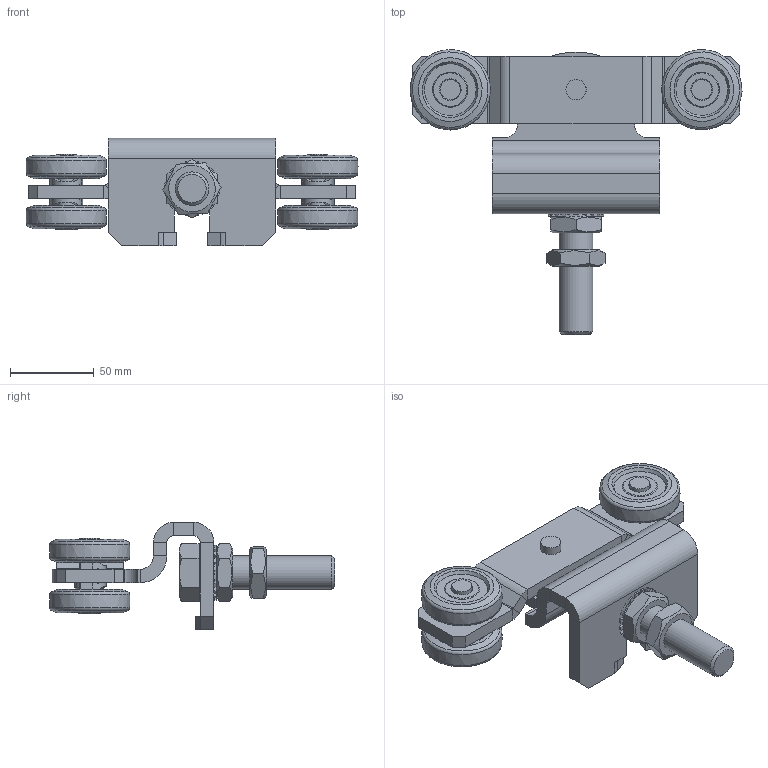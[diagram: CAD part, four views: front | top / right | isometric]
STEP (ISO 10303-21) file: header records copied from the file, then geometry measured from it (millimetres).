
FILE_DESCRIPTION(/* description */ ('Doppelrolle Nr.3 Amoniak'),/* implementation_level */ '2;1');
FILE_NAME(/* name */ 'D:\Public\STP\010336432_TP.stp',/* time_stamp */ '2020-05-13T14:28:00+02:00',/* author */ ('O. Loukota'),/* organization */ (''),/* preprocessor_version */ 'ST-DEVELOPER v17.2',/* originating_system */ 'Autodesk Inventor 2019',/* authorisation */ '');
FILE_SCHEMA (('AUTOMOTIVE_DESIGN { 1 0 10303 214 3 1 1 }'));
Length unit declared in the file: millimetre
Products named in the file (10): 010336432; 337000119; 337000226; 000303237; 336290030; 000302240; 000304012; DIN 6798 - A  21; DIN EN ISO 4017 - M20  x 80; DIN EN ISO 4035 - M20
Assembly tree (17 placements, depth 2):
  010336432
    337000119
    337000226
    000303237  x4
    336290030  x4
    000302240
    000304012  x2
    DIN EN ISO 4035 - M20  x2
    DIN 6798 - A  21
    DIN EN ISO 4017 - M20  x 80
Bounding box: 197.98 x 170 x 64 mm (x, y, z)
Volume: 311522 mm3; surface area: 97093.6 mm2
Topology: 17 solids, 17 shells, 535 faces, 1406 edges, 925 vertices
Faces by surface type: plane 298, cylinder 140, cone 53, bspline 36, torus 8
Full cylindrical faces by diameter (mm): 12 x8, 12.1 x1, 14 x2, 17.294 x2, 18 x1, 18.647 x1, 20 x1, 21 x1, 27.7 x1
Entity records: 12180 total; most frequent: CARTESIAN_POINT 3029, DIRECTION 1927, ORIENTED_EDGE 1808, EDGE_CURVE 904, AXIS2_PLACEMENT_3D 697, VERTEX_POINT 582, LINE 533, VECTOR 533
